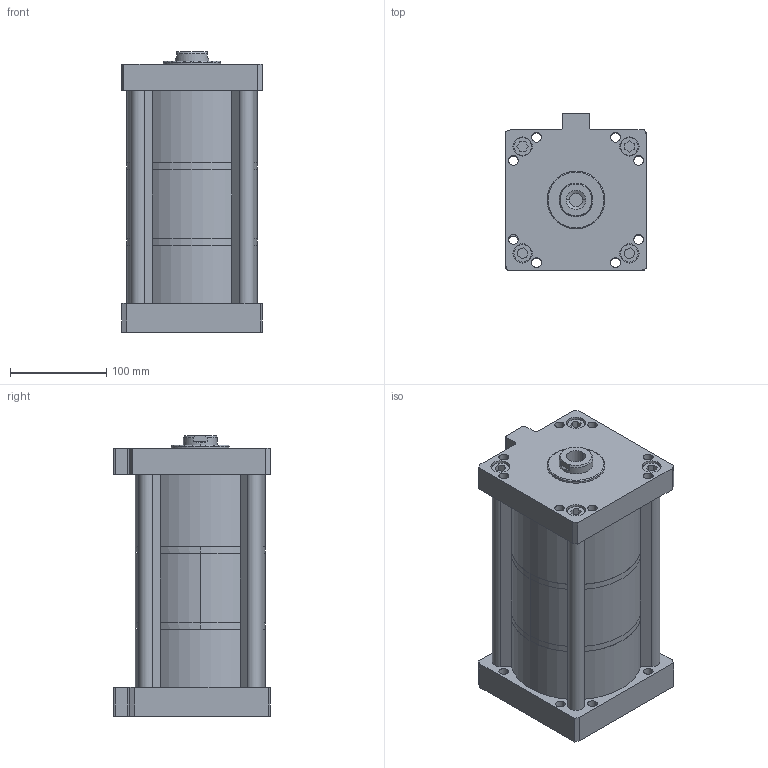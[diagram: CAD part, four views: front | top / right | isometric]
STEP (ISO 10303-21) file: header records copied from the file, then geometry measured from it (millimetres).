
FILE_DESCRIPTION (( 'STEP AP203' ), '1' );
FILE_NAME ('MHK-125-50-F-3.STEP', '2016-03-30T09:15:28', ( 'WIN' ), ( '' ), 'SwSTEP 2.0', 'SolidWorks 2014', '' );
FILE_SCHEMA (( 'CONFIG_CONTROL_DESIGN' ));
Length unit declared in the file: millimetre
Products named in the file (1): MHK-125-50-F-3
Bounding box: 146 x 163 x 291.5 mm (x, y, z)
Volume: 4510023.3 mm3; surface area: 411269.6 mm2
Topology: 4 solids, 8 shells, 299 faces, 726 edges, 474 vertices
Faces by surface type: plane 149, cylinder 136, cone 12, torus 2
Entity records: 8943 total; most frequent: DIRECTION 1606, CARTESIAN_POINT 1528, ORIENTED_EDGE 1444, EDGE_CURVE 722, AXIS2_PLACEMENT_3D 592, VERTEX_POINT 474, VECTOR 422, LINE 422
